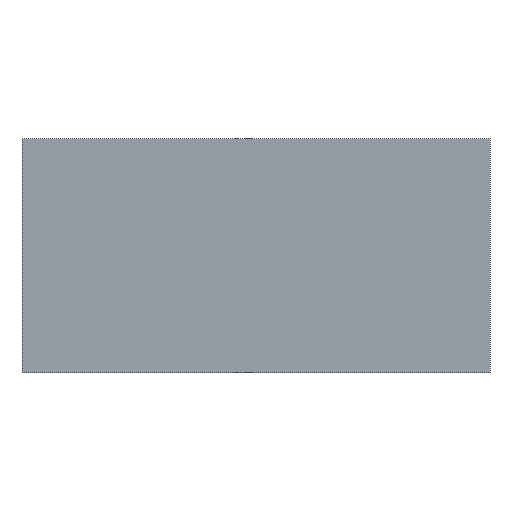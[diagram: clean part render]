
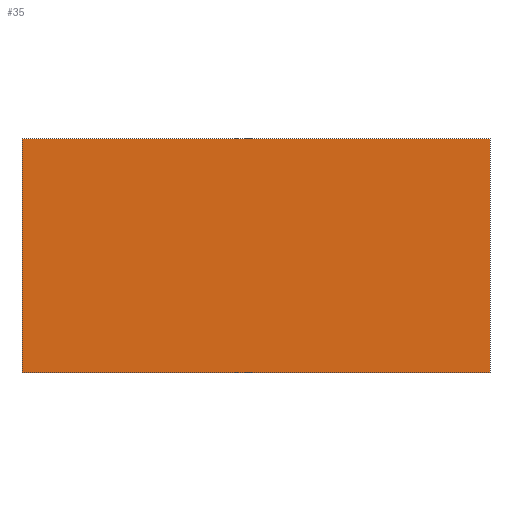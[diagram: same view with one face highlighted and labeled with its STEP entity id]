
A CAD part, left-side view. The second image highlights one B-rep face of the part: STEP entity #35.
In plain terms, the highlighted planar face has unit normal (-1, 0, 0).
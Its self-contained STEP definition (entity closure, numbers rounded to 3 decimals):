
#35 = ADVANCED_FACE('',(#36),#50,.F.);
#36 = FACE_BOUND('',#37,.F.);
#37 = EDGE_LOOP('',(#38,#73,#101,#129));
#38 = ORIENTED_EDGE('',*,*,#39,.F.);
#39 = EDGE_CURVE('',#40,#42,#44,.T.);
#40 = VERTEX_POINT('',#41);
#41 = CARTESIAN_POINT('',(-0.05,-4.,-2.));
#42 = VERTEX_POINT('',#43);
#43 = CARTESIAN_POINT('',(-0.05,-4.,2.));
#44 = SURFACE_CURVE('',#45,(#49,#61),.PCURVE_S1.);
#45 = LINE('',#46,#47);
#46 = CARTESIAN_POINT('',(-0.05,-4.,-2.));
#47 = VECTOR('',#48,1.);
#48 = DIRECTION('',(0.,0.,1.));
#49 = PCURVE('',#50,#55);
#50 = PLANE('',#51);
#51 = AXIS2_PLACEMENT_3D('',#52,#53,#54);
#52 = CARTESIAN_POINT('',(-0.05,-4.,-2.));
#53 = DIRECTION('',(1.,0.,0.));
#54 = DIRECTION('',(0.,0.,1.));
#55 = DEFINITIONAL_REPRESENTATION('',(#56),#60);
#56 = LINE('',#57,#58);
#57 = CARTESIAN_POINT('',(0.,0.));
#58 = VECTOR('',#59,1.);
#59 = DIRECTION('',(1.,0.));
#60 = ( GEOMETRIC_REPRESENTATION_CONTEXT(2) 
PARAMETRIC_REPRESENTATION_CONTEXT() REPRESENTATION_CONTEXT('2D SPACE',''
  ) );
#61 = PCURVE('',#62,#67);
#62 = PLANE('',#63);
#63 = AXIS2_PLACEMENT_3D('',#64,#65,#66);
#64 = CARTESIAN_POINT('',(-0.05,-4.,-2.));
#65 = DIRECTION('',(0.,1.,0.));
#66 = DIRECTION('',(0.,0.,1.));
#67 = DEFINITIONAL_REPRESENTATION('',(#68),#72);
#68 = LINE('',#69,#70);
#69 = CARTESIAN_POINT('',(0.,0.));
#70 = VECTOR('',#71,1.);
#71 = DIRECTION('',(1.,0.));
#72 = ( GEOMETRIC_REPRESENTATION_CONTEXT(2) 
PARAMETRIC_REPRESENTATION_CONTEXT() REPRESENTATION_CONTEXT('2D SPACE',''
  ) );
#73 = ORIENTED_EDGE('',*,*,#74,.T.);
#74 = EDGE_CURVE('',#40,#75,#77,.T.);
#75 = VERTEX_POINT('',#76);
#76 = CARTESIAN_POINT('',(-0.05,4.,-2.));
#77 = SURFACE_CURVE('',#78,(#82,#89),.PCURVE_S1.);
#78 = LINE('',#79,#80);
#79 = CARTESIAN_POINT('',(-0.05,-4.,-2.));
#80 = VECTOR('',#81,1.);
#81 = DIRECTION('',(0.,1.,0.));
#82 = PCURVE('',#50,#83);
#83 = DEFINITIONAL_REPRESENTATION('',(#84),#88);
#84 = LINE('',#85,#86);
#85 = CARTESIAN_POINT('',(0.,0.));
#86 = VECTOR('',#87,1.);
#87 = DIRECTION('',(0.,-1.));
#88 = ( GEOMETRIC_REPRESENTATION_CONTEXT(2) 
PARAMETRIC_REPRESENTATION_CONTEXT() REPRESENTATION_CONTEXT('2D SPACE',''
  ) );
#89 = PCURVE('',#90,#95);
#90 = PLANE('',#91);
#91 = AXIS2_PLACEMENT_3D('',#92,#93,#94);
#92 = CARTESIAN_POINT('',(-0.05,-4.,-2.));
#93 = DIRECTION('',(0.,0.,1.));
#94 = DIRECTION('',(1.,0.,0.));
#95 = DEFINITIONAL_REPRESENTATION('',(#96),#100);
#96 = LINE('',#97,#98);
#97 = CARTESIAN_POINT('',(0.,0.));
#98 = VECTOR('',#99,1.);
#99 = DIRECTION('',(0.,1.));
#100 = ( GEOMETRIC_REPRESENTATION_CONTEXT(2) 
PARAMETRIC_REPRESENTATION_CONTEXT() REPRESENTATION_CONTEXT('2D SPACE',''
  ) );
#101 = ORIENTED_EDGE('',*,*,#102,.T.);
#102 = EDGE_CURVE('',#75,#103,#105,.T.);
#103 = VERTEX_POINT('',#104);
#104 = CARTESIAN_POINT('',(-0.05,4.,2.));
#105 = SURFACE_CURVE('',#106,(#110,#117),.PCURVE_S1.);
#106 = LINE('',#107,#108);
#107 = CARTESIAN_POINT('',(-0.05,4.,-2.));
#108 = VECTOR('',#109,1.);
#109 = DIRECTION('',(0.,0.,1.));
#110 = PCURVE('',#50,#111);
#111 = DEFINITIONAL_REPRESENTATION('',(#112),#116);
#112 = LINE('',#113,#114);
#113 = CARTESIAN_POINT('',(0.,-8.));
#114 = VECTOR('',#115,1.);
#115 = DIRECTION('',(1.,0.));
#116 = ( GEOMETRIC_REPRESENTATION_CONTEXT(2) 
PARAMETRIC_REPRESENTATION_CONTEXT() REPRESENTATION_CONTEXT('2D SPACE',''
  ) );
#117 = PCURVE('',#118,#123);
#118 = PLANE('',#119);
#119 = AXIS2_PLACEMENT_3D('',#120,#121,#122);
#120 = CARTESIAN_POINT('',(-0.05,4.,-2.));
#121 = DIRECTION('',(0.,1.,0.));
#122 = DIRECTION('',(0.,0.,1.));
#123 = DEFINITIONAL_REPRESENTATION('',(#124),#128);
#124 = LINE('',#125,#126);
#125 = CARTESIAN_POINT('',(0.,0.));
#126 = VECTOR('',#127,1.);
#127 = DIRECTION('',(1.,0.));
#128 = ( GEOMETRIC_REPRESENTATION_CONTEXT(2) 
PARAMETRIC_REPRESENTATION_CONTEXT() REPRESENTATION_CONTEXT('2D SPACE',''
  ) );
#129 = ORIENTED_EDGE('',*,*,#130,.F.);
#130 = EDGE_CURVE('',#42,#103,#131,.T.);
#131 = SURFACE_CURVE('',#132,(#136,#143),.PCURVE_S1.);
#132 = LINE('',#133,#134);
#133 = CARTESIAN_POINT('',(-0.05,-4.,2.));
#134 = VECTOR('',#135,1.);
#135 = DIRECTION('',(0.,1.,0.));
#136 = PCURVE('',#50,#137);
#137 = DEFINITIONAL_REPRESENTATION('',(#138),#142);
#138 = LINE('',#139,#140);
#139 = CARTESIAN_POINT('',(4.,0.));
#140 = VECTOR('',#141,1.);
#141 = DIRECTION('',(0.,-1.));
#142 = ( GEOMETRIC_REPRESENTATION_CONTEXT(2) 
PARAMETRIC_REPRESENTATION_CONTEXT() REPRESENTATION_CONTEXT('2D SPACE',''
  ) );
#143 = PCURVE('',#144,#149);
#144 = PLANE('',#145);
#145 = AXIS2_PLACEMENT_3D('',#146,#147,#148);
#146 = CARTESIAN_POINT('',(-0.05,-4.,2.));
#147 = DIRECTION('',(0.,0.,1.));
#148 = DIRECTION('',(1.,0.,0.));
#149 = DEFINITIONAL_REPRESENTATION('',(#150),#154);
#150 = LINE('',#151,#152);
#151 = CARTESIAN_POINT('',(0.,0.));
#152 = VECTOR('',#153,1.);
#153 = DIRECTION('',(0.,1.));
#154 = ( GEOMETRIC_REPRESENTATION_CONTEXT(2) 
PARAMETRIC_REPRESENTATION_CONTEXT() REPRESENTATION_CONTEXT('2D SPACE',''
  ) );
